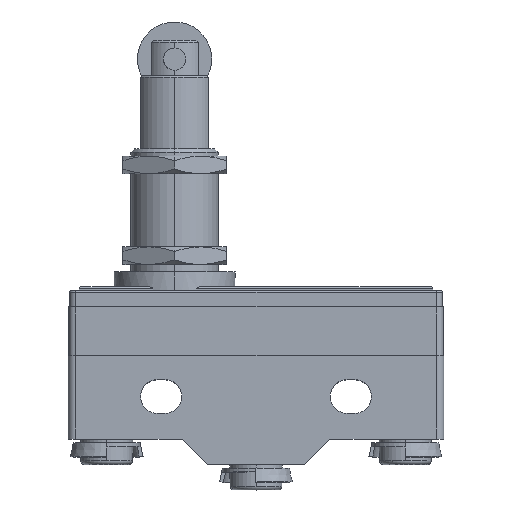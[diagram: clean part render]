
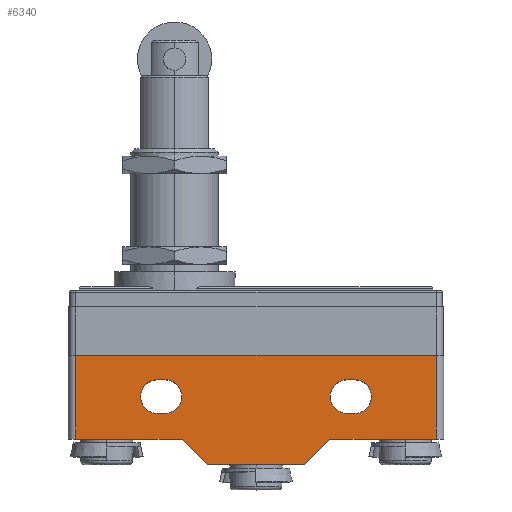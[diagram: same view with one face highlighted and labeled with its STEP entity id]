
A CAD part, top view. The second image highlights one B-rep face of the part: STEP entity #6340.
In plain terms, the highlighted planar face has unit normal (0, 0, 1).
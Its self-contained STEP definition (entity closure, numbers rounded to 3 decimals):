
#172 = ORIENTED_EDGE ( 'NONE', *, *, #7590, .T. ) ;
#173 = ORIENTED_EDGE ( 'NONE', *, *, #7437, .T. ) ;
#174 = ORIENTED_EDGE ( 'NONE', *, *, #7588, .T. ) ;
#175 = ORIENTED_EDGE ( 'NONE', *, *, #7468, .T. ) ;
#176 = ORIENTED_EDGE ( 'NONE', *, *, #7586, .T. ) ;
#177 = ORIENTED_EDGE ( 'NONE', *, *, #7582, .T. ) ;
#178 = ORIENTED_EDGE ( 'NONE', *, *, #7584, .T. ) ;
#179 = ORIENTED_EDGE ( 'NONE', *, *, #7581, .F. ) ;
#180 = ORIENTED_EDGE ( 'NONE', *, *, #7580, .F. ) ;
#181 = ORIENTED_EDGE ( 'NONE', *, *, #7125, .F. ) ;
#182 = ORIENTED_EDGE ( 'NONE', *, *, #7576, .F. ) ;
#183 = ORIENTED_EDGE ( 'NONE', *, *, #7578, .F. ) ;
#184 = ORIENTED_EDGE ( 'NONE', *, *, #7575, .F. ) ;
#185 = ORIENTED_EDGE ( 'NONE', *, *, #7573, .F. ) ;
#186 = ORIENTED_EDGE ( 'NONE', *, *, #7118, .F. ) ;
#187 = ORIENTED_EDGE ( 'NONE', *, *, #7568, .F. ) ;
#188 = ORIENTED_EDGE ( 'NONE', *, *, #7572, .F. ) ;
#189 = ORIENTED_EDGE ( 'NONE', *, *, #7570, .F. ) ;
#1041 = VECTOR ( 'NONE', #3389, 1000. ) ;
#1042 = VECTOR ( 'NONE', #3386, 1000. ) ;
#1043 = VECTOR ( 'NONE', #3383, 1000. ) ;
#1044 = VECTOR ( 'NONE', #3377, 1000. ) ;
#1047 = VECTOR ( 'NONE', #3371, 1000. ) ;
#1058 = VECTOR ( 'NONE', #3395, 1000. ) ;
#1059 = VECTOR ( 'NONE', #3398, 1000. ) ;
#1061 = VECTOR ( 'NONE', #3392, 1000. ) ;
#1121 = AXIS2_PLACEMENT_3D ( 'NONE', #3329, #3357, #3358 ) ;
#1133 = AXIS2_PLACEMENT_3D ( 'NONE', #3359, #3366, #3367 ) ;
#1135 = VECTOR ( 'NONE', #3362, 1000. ) ;
#1137 = VECTOR ( 'NONE', #3365, 1000. ) ;
#1138 = AXIS2_PLACEMENT_3D ( 'NONE', #3374, #3378, #3379 ) ;
#1139 = AXIS2_PLACEMENT_3D ( 'NONE', #3368, #3372, #3373 ) ;
#2312 = EDGE_LOOP ( 'NONE', ( #189, #187, #188, #186, #185 ) ) ;
#2313 = EDGE_LOOP ( 'NONE', ( #184, #182, #183, #181, #180 ) ) ;
#2314 = EDGE_LOOP ( 'NONE', ( #179, #177, #178, #176, #175, #174, #173, #172 ) ) ;
#2558 = CARTESIAN_POINT ( 'NONE',  ( 13.2, -2.8, 9. ) ) ;
#2559 = DIRECTION ( 'NONE',  ( 0., 0., 1. ) ) ;
#2560 = DIRECTION ( 'NONE',  ( 1., 0., 0. ) ) ;
#2570 = CARTESIAN_POINT ( 'NONE',  ( -12.2, -2.8, 9. ) ) ;
#2571 = DIRECTION ( 'NONE',  ( 0., 0., 1. ) ) ;
#2572 = DIRECTION ( 'NONE',  ( 1., 0., 0. ) ) ;
#3136 = LINE ( 'NONE', #3137, #4714 ) ;
#3137 = CARTESIAN_POINT ( 'NONE',  ( 25.15, -8.5, 9. ) ) ;
#3138 = DIRECTION ( 'NONE',  ( 1., 0., 0. ) ) ;
#3183 = LINE ( 'NONE', #3184, #4816 ) ;
#3184 = CARTESIAN_POINT ( 'NONE',  ( 6.5, -11.9, 9. ) ) ;
#3185 = DIRECTION ( 'NONE',  ( 1., 0., 0. ) ) ;
#3329 = CARTESIAN_POINT ( 'NONE',  ( 12.2, -2.8, 9. ) ) ;
#3357 = DIRECTION ( 'NONE',  ( 0., 0., 1. ) ) ;
#3358 = DIRECTION ( 'NONE',  ( 1., 0., 0. ) ) ;
#3359 = CARTESIAN_POINT ( 'NONE',  ( 13.2, -2.8, 9. ) ) ;
#3360 = LINE ( 'NONE', #3361, #1135 ) ;
#3361 = CARTESIAN_POINT ( 'NONE',  ( 12.2, -5.05, 9. ) ) ;
#3362 = DIRECTION ( 'NONE',  ( 1., 0., 0. ) ) ;
#3363 = LINE ( 'NONE', #3364, #1137 ) ;
#3364 = CARTESIAN_POINT ( 'NONE',  ( 12.2, -0.55, 9. ) ) ;
#3365 = DIRECTION ( 'NONE',  ( -1., 0., 0. ) ) ;
#3366 = DIRECTION ( 'NONE',  ( 0., 0., 1. ) ) ;
#3367 = DIRECTION ( 'NONE',  ( 1., 0., 0. ) ) ;
#3368 = CARTESIAN_POINT ( 'NONE',  ( -13.2, -2.8, 9. ) ) ;
#3369 = LINE ( 'NONE', #3370, #1047 ) ;
#3370 = CARTESIAN_POINT ( 'NONE',  ( -13.2, -5.05, 9. ) ) ;
#3371 = DIRECTION ( 'NONE',  ( 1., 0., 0. ) ) ;
#3372 = DIRECTION ( 'NONE',  ( 0., 0., 1. ) ) ;
#3373 = DIRECTION ( 'NONE',  ( 1., 0., 0. ) ) ;
#3374 = CARTESIAN_POINT ( 'NONE',  ( -12.2, -2.8, 9. ) ) ;
#3375 = LINE ( 'NONE', #3376, #1044 ) ;
#3376 = CARTESIAN_POINT ( 'NONE',  ( -13.2, -0.55, 9. ) ) ;
#3377 = DIRECTION ( 'NONE',  ( -1., 0., 0. ) ) ;
#3378 = DIRECTION ( 'NONE',  ( 0., 0., 1. ) ) ;
#3379 = DIRECTION ( 'NONE',  ( 1., 0., 0. ) ) ;
#3381 = LINE ( 'NONE', #3382, #1043 ) ;
#3382 = CARTESIAN_POINT ( 'NONE',  ( -24.15, 2.7, 9. ) ) ;
#3383 = DIRECTION ( 'NONE',  ( 1., 0., 0. ) ) ;
#3384 = LINE ( 'NONE', #3385, #1042 ) ;
#3385 = CARTESIAN_POINT ( 'NONE',  ( -24.15, 0., 9. ) ) ;
#3386 = DIRECTION ( 'NONE',  ( 0., -1., 0. ) ) ;
#3387 = LINE ( 'NONE', #3388, #1041 ) ;
#3388 = CARTESIAN_POINT ( 'NONE',  ( -9.9, -8.5, 9. ) ) ;
#3389 = DIRECTION ( 'NONE',  ( 1., 0., 0. ) ) ;
#3390 = LINE ( 'NONE', #3391, #1061 ) ;
#3391 = CARTESIAN_POINT ( 'NONE',  ( -6.5, -11.9, 9. ) ) ;
#3392 = DIRECTION ( 'NONE',  ( 0.707, -0.707, 0. ) ) ;
#3393 = LINE ( 'NONE', #3394, #1058 ) ;
#3394 = CARTESIAN_POINT ( 'NONE',  ( 9.9, -8.5, 9. ) ) ;
#3395 = DIRECTION ( 'NONE',  ( 0.707, 0.707, 0. ) ) ;
#3396 = LINE ( 'NONE', #3397, #1059 ) ;
#3397 = CARTESIAN_POINT ( 'NONE',  ( 24.15, 0., 9. ) ) ;
#3398 = DIRECTION ( 'NONE',  ( 0., 1., 0. ) ) ;
#3557 = VERTEX_POINT ( 'NONE', #3961 ) ;
#3558 = VERTEX_POINT ( 'NONE', #3962 ) ;
#3672 = VERTEX_POINT ( 'NONE', #4076 ) ;
#3673 = VERTEX_POINT ( 'NONE', #4077 ) ;
#3776 = VERTEX_POINT ( 'NONE', #4180 ) ;
#3777 = VERTEX_POINT ( 'NONE', #4181 ) ;
#3780 = VERTEX_POINT ( 'NONE', #4184 ) ;
#3781 = VERTEX_POINT ( 'NONE', #4185 ) ;
#3875 = VERTEX_POINT ( 'NONE', #4279 ) ;
#3876 = VERTEX_POINT ( 'NONE', #4280 ) ;
#3877 = VERTEX_POINT ( 'NONE', #4281 ) ;
#3879 = VERTEX_POINT ( 'NONE', #4283 ) ;
#3884 = VERTEX_POINT ( 'NONE', #4288 ) ;
#3888 = VERTEX_POINT ( 'NONE', #4292 ) ;
#3889 = VERTEX_POINT ( 'NONE', #4293 ) ;
#3890 = VERTEX_POINT ( 'NONE', #4294 ) ;
#3891 = VERTEX_POINT ( 'NONE', #4295 ) ;
#3892 = VERTEX_POINT ( 'NONE', #4296 ) ;
#3961 = CARTESIAN_POINT ( 'NONE',  ( -6.5, -11.9, 9. ) ) ;
#3962 = CARTESIAN_POINT ( 'NONE',  ( 6.5, -11.9, 9. ) ) ;
#4076 = CARTESIAN_POINT ( 'NONE',  ( 9.9, -8.5, 9. ) ) ;
#4077 = CARTESIAN_POINT ( 'NONE',  ( 24.15, -8.5, 9. ) ) ;
#4180 = CARTESIAN_POINT ( 'NONE',  ( -12.2, -0.55, 9. ) ) ;
#4181 = CARTESIAN_POINT ( 'NONE',  ( -9.95, -2.8, 9. ) ) ;
#4184 = CARTESIAN_POINT ( 'NONE',  ( 13.2, -0.55, 9. ) ) ;
#4185 = CARTESIAN_POINT ( 'NONE',  ( 15.45, -2.8, 9. ) ) ;
#4279 = CARTESIAN_POINT ( 'NONE',  ( 13.2, -5.05, 9. ) ) ;
#4280 = CARTESIAN_POINT ( 'NONE',  ( 12.2, -0.55, 9. ) ) ;
#4281 = CARTESIAN_POINT ( 'NONE',  ( -13.2, -5.05, 9. ) ) ;
#4283 = CARTESIAN_POINT ( 'NONE',  ( 12.2, -5.05, 9. ) ) ;
#4288 = CARTESIAN_POINT ( 'NONE',  ( -24.15, 2.7, 9. ) ) ;
#4292 = CARTESIAN_POINT ( 'NONE',  ( -13.2, -0.55, 9. ) ) ;
#4293 = CARTESIAN_POINT ( 'NONE',  ( -12.2, -5.05, 9. ) ) ;
#4294 = CARTESIAN_POINT ( 'NONE',  ( -9.9, -8.5, 9. ) ) ;
#4295 = CARTESIAN_POINT ( 'NONE',  ( -24.15, -8.5, 9. ) ) ;
#4296 = CARTESIAN_POINT ( 'NONE',  ( 24.15, 2.7, 9. ) ) ;
#4714 = VECTOR ( 'NONE', #3138, 1000. ) ;
#4816 = VECTOR ( 'NONE', #3185, 1000. ) ;
#4921 = AXIS2_PLACEMENT_3D ( 'NONE', #2570, #2571, #2572 ) ;
#4929 = AXIS2_PLACEMENT_3D ( 'NONE', #2558, #2559, #2560 ) ;
#5354 = PLANE ( 'NONE',  #7505 ) ;
#5355 = CARTESIAN_POINT ( 'NONE',  ( 0., 0., 9. ) ) ;
#5356 = DIRECTION ( 'NONE',  ( 0., 0., -1. ) ) ;
#5357 = DIRECTION ( 'NONE',  ( -1., 0., 0. ) ) ;
#6340 = ADVANCED_FACE ( 'NONE', ( #7523, #7528, #7512 ), #5354, .F. ) ;
#6543 = CIRCLE ( 'NONE', #1138, 2.25 ) ;
#6544 = CIRCLE ( 'NONE', #1139, 2.25 ) ;
#6545 = CIRCLE ( 'NONE', #1133, 2.25 ) ;
#6546 = CIRCLE ( 'NONE', #1121, 2.25 ) ;
#6620 = CIRCLE ( 'NONE', #4921, 2.25 ) ;
#6622 = CIRCLE ( 'NONE', #4929, 2.25 ) ;
#7118 = EDGE_CURVE ( 'NONE', #3781, #3780, #6622, .T. ) ;
#7125 = EDGE_CURVE ( 'NONE', #3777, #3776, #6620, .T. ) ;
#7437 = EDGE_CURVE ( 'NONE', #3672, #3673, #3136, .T. ) ;
#7468 = EDGE_CURVE ( 'NONE', #3557, #3558, #3183, .T. ) ;
#7505 = AXIS2_PLACEMENT_3D ( 'NONE', #5355, #5356, #5357 ) ;
#7512 = FACE_OUTER_BOUND ( 'NONE', #2314, .T. ) ;
#7523 = FACE_BOUND ( 'NONE', #2312, .T. ) ;
#7528 = FACE_BOUND ( 'NONE', #2313, .T. ) ;
#7568 = EDGE_CURVE ( 'NONE', #3876, #3879, #6546, .T. ) ;
#7570 = EDGE_CURVE ( 'NONE', #3879, #3875, #3360, .T. ) ;
#7572 = EDGE_CURVE ( 'NONE', #3780, #3876, #3363, .T. ) ;
#7573 = EDGE_CURVE ( 'NONE', #3875, #3781, #6545, .T. ) ;
#7575 = EDGE_CURVE ( 'NONE', #3877, #3889, #3369, .T. ) ;
#7576 = EDGE_CURVE ( 'NONE', #3888, #3877, #6544, .T. ) ;
#7578 = EDGE_CURVE ( 'NONE', #3776, #3888, #3375, .T. ) ;
#7580 = EDGE_CURVE ( 'NONE', #3889, #3777, #6543, .T. ) ;
#7581 = EDGE_CURVE ( 'NONE', #3884, #3892, #3381, .T. ) ;
#7582 = EDGE_CURVE ( 'NONE', #3884, #3891, #3384, .T. ) ;
#7584 = EDGE_CURVE ( 'NONE', #3891, #3890, #3387, .T. ) ;
#7586 = EDGE_CURVE ( 'NONE', #3890, #3557, #3390, .T. ) ;
#7588 = EDGE_CURVE ( 'NONE', #3558, #3672, #3393, .T. ) ;
#7590 = EDGE_CURVE ( 'NONE', #3673, #3892, #3396, .T. ) ;
